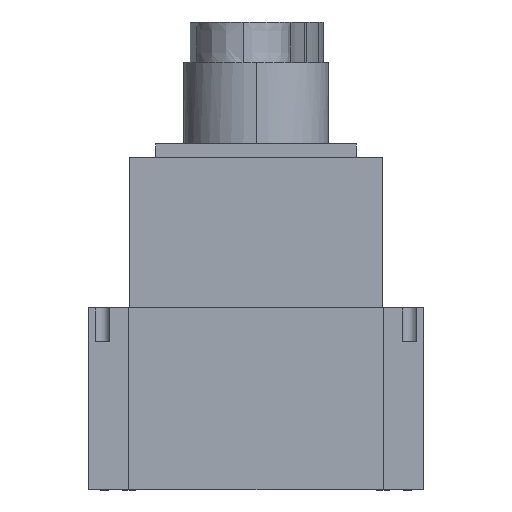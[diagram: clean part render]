
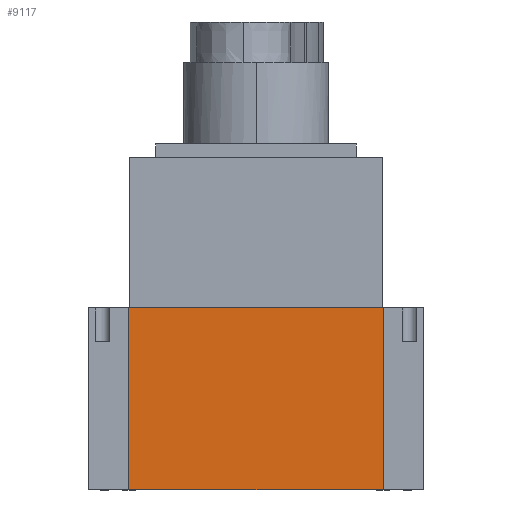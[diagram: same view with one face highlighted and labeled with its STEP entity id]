
A CAD part, left-side view. The second image highlights one B-rep face of the part: STEP entity #9117.
In plain terms, the highlighted planar face has unit normal (-1, 0, 0).
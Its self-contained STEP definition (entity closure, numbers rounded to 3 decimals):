
#2=DIRECTION('',(0.,1.,0.));
#3=VECTOR('',#2,100.306);
#4=CARTESIAN_POINT('',(0.,15.847,0.));
#5=LINE('',#4,#3);
#6=DIRECTION('',(0.,-1.,0.));
#7=VECTOR('',#6,100.306);
#8=CARTESIAN_POINT('',(0.,116.153,71.69));
#9=LINE('',#8,#7);
#10=DIRECTION('',(0.,0.,-1.));
#11=VECTOR('',#10,71.69);
#12=CARTESIAN_POINT('',(0.,15.847,71.69));
#13=LINE('',#12,#11);
#6252=DIRECTION('',(0.,0.,-1.));
#6253=VECTOR('',#6252,71.69);
#6254=CARTESIAN_POINT('',(0.,116.153,71.69));
#6255=LINE('',#6254,#6253);
#6958=CARTESIAN_POINT('',(0.,15.847,0.));
#6959=CARTESIAN_POINT('',(0.,116.153,0.));
#6960=VERTEX_POINT('',#6958);
#6961=VERTEX_POINT('',#6959);
#6962=CARTESIAN_POINT('',(0.,116.153,71.69));
#6963=VERTEX_POINT('',#6962);
#6964=CARTESIAN_POINT('',(0.,15.847,71.69));
#6965=VERTEX_POINT('',#6964);
#9102=CARTESIAN_POINT('',(0.,0.,0.));
#9103=DIRECTION('',(-1.,0.,0.));
#9104=DIRECTION('',(0.,0.,1.));
#9105=AXIS2_PLACEMENT_3D('',#9102,#9103,#9104);
#9106=PLANE('',#9105);
#9108=ORIENTED_EDGE('',*,*,#9107,.T.);
#9110=ORIENTED_EDGE('',*,*,#9109,.F.);
#9112=ORIENTED_EDGE('',*,*,#9111,.T.);
#9114=ORIENTED_EDGE('',*,*,#9113,.T.);
#9115=EDGE_LOOP('',(#9108,#9110,#9112,#9114));
#9116=FACE_OUTER_BOUND('',#9115,.F.);
#9107=EDGE_CURVE('',#6960,#6961,#5,.T.);
#9109=EDGE_CURVE('',#6963,#6961,#6255,.T.);
#9111=EDGE_CURVE('',#6963,#6965,#9,.T.);
#9113=EDGE_CURVE('',#6965,#6960,#13,.T.);
#9117=ADVANCED_FACE('',(#9116),#9106,.T.);
